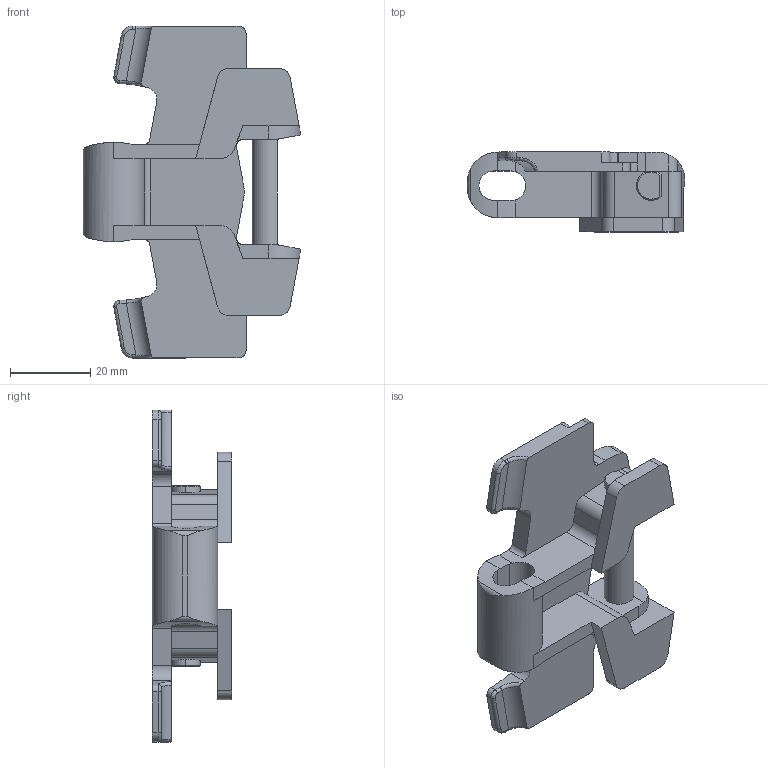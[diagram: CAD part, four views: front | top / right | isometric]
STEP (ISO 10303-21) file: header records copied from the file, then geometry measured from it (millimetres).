
FILE_DESCRIPTION (( 'STEP AP203' ), '1' );
FILE_NAME ('2000.879.325.STEP', '2019-09-09T14:06:09', ( 'Localadmin' ), ( 'Microsoft' ), 'SwSTEP 2.0', 'SolidWorks 2018', '' );
FILE_SCHEMA (( 'CONFIG_CONTROL_DESIGN' ));
Length unit declared in the file: millimetre
Products named in the file (1): 2000.879.325
Bounding box: 54.1 x 19.8 x 82.55 mm (x, y, z)
Volume: 23240.4 mm3; surface area: 13083.3 mm2
Topology: 2 solids, 2 shells, 153 faces, 444 edges, 289 vertices
Faces by surface type: cylinder 72, plane 67, bspline 10, cone 4
Entity records: 6452 total; most frequent: CARTESIAN_POINT 2618, ORIENTED_EDGE 888, DIRECTION 651, EDGE_CURVE 444, VERTEX_POINT 289, LINE 231, VECTOR 231, AXIS2_PLACEMENT_3D 210
